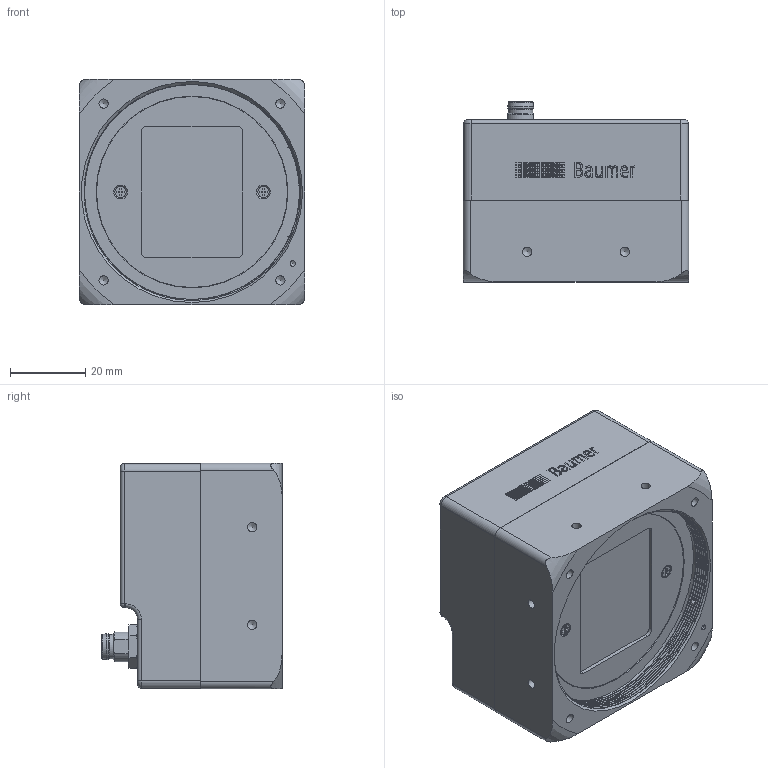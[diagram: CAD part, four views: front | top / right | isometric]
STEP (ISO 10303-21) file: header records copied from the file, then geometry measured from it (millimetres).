
FILE_DESCRIPTION( ( 'Unknown' ), '1' );
FILE_NAME( 'C:/Users/rih/Desktop/11148664_LXC-120C.stp', '14.10.2014', ( 'Unknown' ), ( 'Unknown' ), 'PSStep 15.0.49', 'Unknown', ' ' );
FILE_SCHEMA( ( 'AUTOMOTIVE_DESIGN { 1 0 10303 214 1 1 1 1 }' ) );
Length unit declared in the file: millimetre
Products named in the file (3): 11036870-oa0
Bounding box: 60 x 47.95 x 60 mm (x, y, z)
Volume: 45590.2 mm3; surface area: 41275.6 mm2
Topology: 3 solids, 5 shells, 1709 faces, 4223 edges, 2809 vertices
Faces by surface type: plane 993, cylinder 573, extrusion 52, cone 48, torus 19, bspline 13, sphere 11
Full cylindrical faces by diameter (mm): 0.223 x20, 0.28 x20, 0.337 x20, 0.394 x20, 0.451 x20, 0.5 x2, 0.509 x20, 0.566 x20, 0.6 x8, 0.623 x20, 1.18 x2, 1.221 x12, 1.45 x1, 1.5 x1, 1.567 x12, 1.8 x2, 2 x4, 2.459 x24, 2.8 x1, 2.92 x1, 3 x2, 3.4 x1, 3.8 x4, 4.3 x4, 6.5 x1, 6.9 x1, 9.3 x1, 50.8 x1, 51 x1, 58 x2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
Entity records: 73598 total; most frequent: CARTESIAN_POINT 21263, DIRECTION 7989, ORIENTED_EDGE 7434, EDGE_CURVE 3717, AXIS2_PLACEMENT_3D 2833, VERTEX_POINT 2631, VECTOR 2323, EDGE_LOOP 2322
